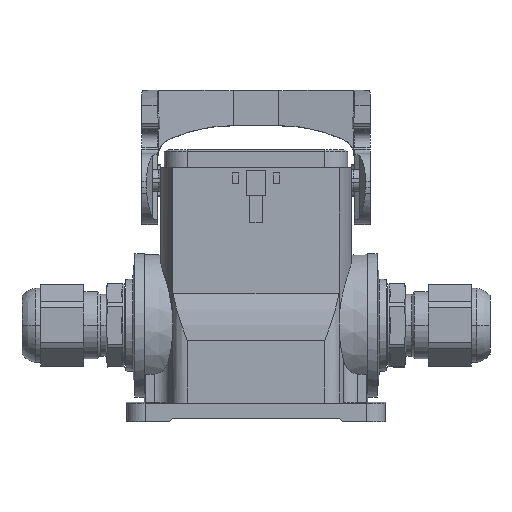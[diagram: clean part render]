
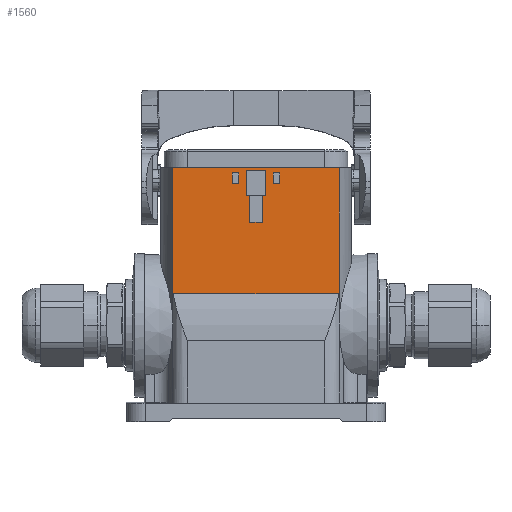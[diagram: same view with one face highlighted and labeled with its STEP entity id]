
A CAD part, front view. The second image highlights one B-rep face of the part: STEP entity #1560.
In plain terms, the highlighted planar face has unit normal (0, -1, 0).
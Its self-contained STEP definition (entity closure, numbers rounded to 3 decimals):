
#912=FACE_BOUND('',#3115,.T.);
#913=FACE_BOUND('',#3116,.T.);
#914=FACE_BOUND('',#3117,.T.);
#915=FACE_BOUND('',#3118,.T.);
#1560=ADVANCED_FACE('',(#912,#913,#914,#915),#2151,.T.);
#2151=PLANE('',#13469);
#3115=EDGE_LOOP('',(#4596,#4597,#4598,#4599));
#3116=EDGE_LOOP('',(#4600,#4601,#4602,#4603));
#3117=EDGE_LOOP('',(#4604,#4605,#4606,#4607,#4608,#4609,#4610,#4611));
#3118=EDGE_LOOP('',(#4612,#4613,#4614,#4615));
#4596=ORIENTED_EDGE('',*,*,#8768,.F.);
#4597=ORIENTED_EDGE('',*,*,#8769,.F.);
#4598=ORIENTED_EDGE('',*,*,#8770,.F.);
#4599=ORIENTED_EDGE('',*,*,#8771,.F.);
#4600=ORIENTED_EDGE('',*,*,#8772,.F.);
#4601=ORIENTED_EDGE('',*,*,#8773,.T.);
#4602=ORIENTED_EDGE('',*,*,#8774,.T.);
#4603=ORIENTED_EDGE('',*,*,#8775,.T.);
#4604=ORIENTED_EDGE('',*,*,#8776,.T.);
#4605=ORIENTED_EDGE('',*,*,#8777,.T.);
#4606=ORIENTED_EDGE('',*,*,#8778,.T.);
#4607=ORIENTED_EDGE('',*,*,#8779,.T.);
#4608=ORIENTED_EDGE('',*,*,#8780,.T.);
#4609=ORIENTED_EDGE('',*,*,#8781,.T.);
#4610=ORIENTED_EDGE('',*,*,#8782,.T.);
#4611=ORIENTED_EDGE('',*,*,#8783,.T.);
#4612=ORIENTED_EDGE('',*,*,#8784,.F.);
#4613=ORIENTED_EDGE('',*,*,#8785,.F.);
#4614=ORIENTED_EDGE('',*,*,#8786,.F.);
#4615=ORIENTED_EDGE('',*,*,#8787,.F.);
#7499=VERTEX_POINT('',#19468);
#7500=VERTEX_POINT('',#19469);
#7501=VERTEX_POINT('',#19471);
#7502=VERTEX_POINT('',#19473);
#7503=VERTEX_POINT('',#19476);
#7504=VERTEX_POINT('',#19477);
#7505=VERTEX_POINT('',#19479);
#7506=VERTEX_POINT('',#19481);
#7507=VERTEX_POINT('',#19484);
#7508=VERTEX_POINT('',#19485);
#7509=VERTEX_POINT('',#19487);
#7510=VERTEX_POINT('',#19489);
#7511=VERTEX_POINT('',#19491);
#7512=VERTEX_POINT('',#19493);
#7513=VERTEX_POINT('',#19495);
#7514=VERTEX_POINT('',#19497);
#7515=VERTEX_POINT('',#19500);
#7516=VERTEX_POINT('',#19501);
#7517=VERTEX_POINT('',#19503);
#7518=VERTEX_POINT('',#19505);
#8768=EDGE_CURVE('',#7499,#7500,#11148,.T.);
#8769=EDGE_CURVE('',#7501,#7499,#11149,.T.);
#8770=EDGE_CURVE('',#7502,#7501,#11150,.T.);
#8771=EDGE_CURVE('',#7500,#7502,#11151,.T.);
#8772=EDGE_CURVE('',#7503,#7504,#11152,.T.);
#8773=EDGE_CURVE('',#7503,#7505,#11153,.T.);
#8774=EDGE_CURVE('',#7505,#7506,#11154,.T.);
#8775=EDGE_CURVE('',#7506,#7504,#11155,.T.);
#8776=EDGE_CURVE('',#7507,#7508,#11156,.T.);
#8777=EDGE_CURVE('',#7508,#7509,#11157,.T.);
#8778=EDGE_CURVE('',#7509,#7510,#11158,.T.);
#8779=EDGE_CURVE('',#7510,#7511,#11159,.T.);
#8780=EDGE_CURVE('',#7511,#7512,#11160,.T.);
#8781=EDGE_CURVE('',#7512,#7513,#11161,.T.);
#8782=EDGE_CURVE('',#7513,#7514,#11162,.T.);
#8783=EDGE_CURVE('',#7514,#7507,#11163,.T.);
#8784=EDGE_CURVE('',#7515,#7516,#11164,.T.);
#8785=EDGE_CURVE('',#7517,#7515,#11165,.T.);
#8786=EDGE_CURVE('',#7518,#7517,#11166,.T.);
#8787=EDGE_CURVE('',#7516,#7518,#11167,.T.);
#11148=LINE('',#19467,#12226);
#11149=LINE('',#19470,#12227);
#11150=LINE('',#19472,#12228);
#11151=LINE('',#19474,#12229);
#11152=LINE('',#19475,#12230);
#11153=LINE('',#19478,#12231);
#11154=LINE('',#19480,#12232);
#11155=LINE('',#19482,#12233);
#11156=LINE('',#19483,#12234);
#11157=LINE('',#19486,#12235);
#11158=LINE('',#19488,#12236);
#11159=LINE('',#19490,#12237);
#11160=LINE('',#19492,#12238);
#11161=LINE('',#19494,#12239);
#11162=LINE('',#19496,#12240);
#11163=LINE('',#19498,#12241);
#11164=LINE('',#19499,#12242);
#11165=LINE('',#19502,#12243);
#11166=LINE('',#19504,#12244);
#11167=LINE('',#19506,#12245);
#12226=VECTOR('',#15325,1.);
#12227=VECTOR('',#15326,1.);
#12228=VECTOR('',#15327,1.);
#12229=VECTOR('',#15328,1.);
#12230=VECTOR('',#15329,1.);
#12231=VECTOR('',#15330,1.);
#12232=VECTOR('',#15331,1.);
#12233=VECTOR('',#15332,1.);
#12234=VECTOR('',#15333,1.);
#12235=VECTOR('',#15334,1.);
#12236=VECTOR('',#15335,1.);
#12237=VECTOR('',#15336,1.);
#12238=VECTOR('',#15337,1.);
#12239=VECTOR('',#15338,1.);
#12240=VECTOR('',#15339,1.);
#12241=VECTOR('',#15340,1.);
#12242=VECTOR('',#15341,1.);
#12243=VECTOR('',#15342,1.);
#12244=VECTOR('',#15343,1.);
#12245=VECTOR('',#15344,1.);
#13469=AXIS2_PLACEMENT_3D('',#19507,#15345,#15346);
#15325=DIRECTION('',(0.,0.,1.));
#15326=DIRECTION('',(1.,0.,0.));
#15327=DIRECTION('',(0.,0.,-1.));
#15328=DIRECTION('',(-1.,0.,0.));
#15329=DIRECTION('',(-1.,0.,0.));
#15330=DIRECTION('',(0.,0.,1.));
#15331=DIRECTION('',(-1.,0.,0.));
#15332=DIRECTION('',(0.,0.,-1.));
#15333=DIRECTION('',(0.017,0.,-1.));
#15334=DIRECTION('',(-1.,0.,0.));
#15335=DIRECTION('',(0.,0.,-1.));
#15336=DIRECTION('',(-1.,0.,0.));
#15337=DIRECTION('',(0.,0.,1.));
#15338=DIRECTION('',(-1.,0.,0.));
#15339=DIRECTION('',(0.017,0.,1.));
#15340=DIRECTION('',(1.,0.,0.));
#15341=DIRECTION('',(1.,0.,0.));
#15342=DIRECTION('',(0.,0.,-1.));
#15343=DIRECTION('',(-1.,0.,0.));
#15344=DIRECTION('',(0.,0.,1.));
#15345=DIRECTION('',(0.,-1.,0.));
#15346=DIRECTION('',(-1.,0.,0.));
#19467=CARTESIAN_POINT('',(-5.5,-22.5,5.7));
#19468=CARTESIAN_POINT('',(-5.5,-22.5,0.6));
#19469=CARTESIAN_POINT('',(-5.5,-22.5,4.));
#19470=CARTESIAN_POINT('',(-7.7,-22.5,0.6));
#19471=CARTESIAN_POINT('',(-7.7,-22.5,0.6));
#19472=CARTESIAN_POINT('',(-7.7,-22.5,4.));
#19473=CARTESIAN_POINT('',(-7.7,-22.5,4.));
#19474=CARTESIAN_POINT('',(-5.5,-22.5,4.));
#19475=CARTESIAN_POINT('',(26.85,-22.5,-35.001));
#19476=CARTESIAN_POINT('',(26.85,-22.5,-35.001));
#19477=CARTESIAN_POINT('',(-26.85,-22.5,-35.001));
#19478=CARTESIAN_POINT('',(26.85,-22.5,5.7));
#19479=CARTESIAN_POINT('',(26.85,-22.5,5.7));
#19480=CARTESIAN_POINT('',(0.,-22.5,5.7));
#19481=CARTESIAN_POINT('',(-26.85,-22.5,5.7));
#19482=CARTESIAN_POINT('',(-26.85,-22.5,5.7));
#19483=CARTESIAN_POINT('',(2.047,-22.5,-5.964));
#19484=CARTESIAN_POINT('',(1.86,-22.5,4.75));
#19485=CARTESIAN_POINT('',(2.001,-22.5,-3.285));
#19486=CARTESIAN_POINT('',(0.,-22.5,-3.285));
#19487=CARTESIAN_POINT('',(2.,-22.5,-3.285));
#19488=CARTESIAN_POINT('',(2.,-22.5,-6.));
#19489=CARTESIAN_POINT('',(2.,-22.5,-11.95));
#19490=CARTESIAN_POINT('',(0.,-22.5,-11.95));
#19491=CARTESIAN_POINT('',(-2.,-22.5,-11.95));
#19492=CARTESIAN_POINT('',(-2.,-22.5,-6.));
#19493=CARTESIAN_POINT('',(-2.,-22.5,-3.285));
#19494=CARTESIAN_POINT('',(0.,-22.5,-3.285));
#19495=CARTESIAN_POINT('',(-2.001,-22.5,-3.285));
#19496=CARTESIAN_POINT('',(-2.047,-22.5,-5.964));
#19497=CARTESIAN_POINT('',(-1.86,-22.5,4.75));
#19498=CARTESIAN_POINT('',(-2.,-22.5,4.75));
#19499=CARTESIAN_POINT('',(5.5,-22.5,0.6));
#19500=CARTESIAN_POINT('',(5.5,-22.5,0.6));
#19501=CARTESIAN_POINT('',(7.7,-22.5,0.6));
#19502=CARTESIAN_POINT('',(5.5,-22.5,4.));
#19503=CARTESIAN_POINT('',(5.5,-22.5,4.));
#19504=CARTESIAN_POINT('',(7.7,-22.5,4.));
#19505=CARTESIAN_POINT('',(7.7,-22.5,4.));
#19506=CARTESIAN_POINT('',(7.7,-22.5,0.6));
#19507=CARTESIAN_POINT('',(0.,-22.5,5.7));
